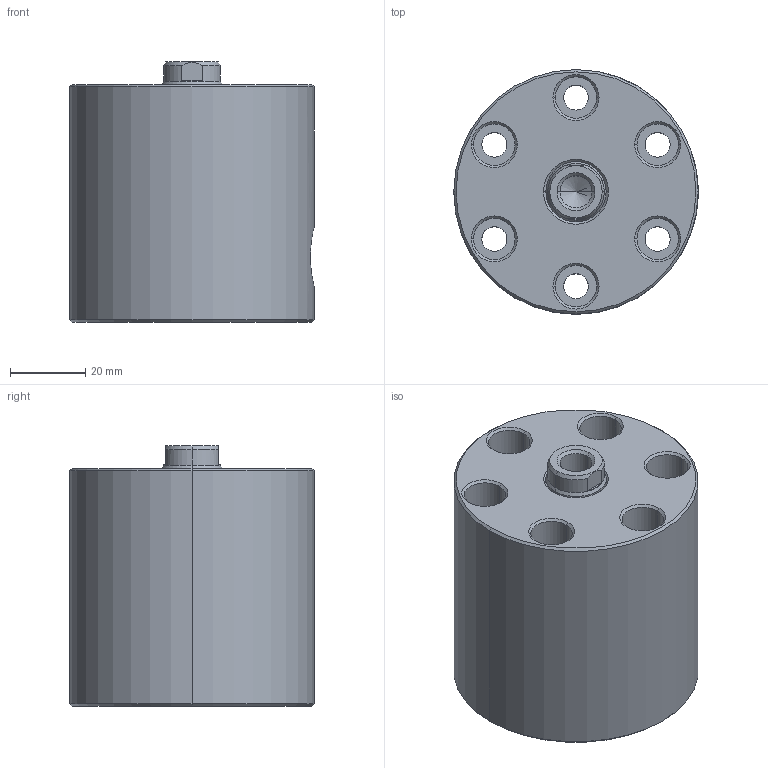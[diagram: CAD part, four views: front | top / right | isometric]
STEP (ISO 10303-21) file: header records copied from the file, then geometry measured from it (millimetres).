
FILE_DESCRIPTION (( 'STEP AP214' ), '1' );
FILE_NAME ('CO2C-6525.STEP', '2020-07-08T07:15:57', ( '' ), ( '' ), 'SwSTEP 2.0', 'SolidWorks 2019', '' );
FILE_SCHEMA (( 'AUTOMOTIVE_DESIGN' ));
Length unit declared in the file: millimetre
Products named in the file (3): CO2C-6525-BODY; CO2C-6525; CO2C-6525-PISTON
Assembly tree (2 placements, depth 2):
  CO2C-6525
    CO2C-6525-BODY
    CO2C-6525-PISTON
Bounding box: 64.8 x 64.8 x 69 mm (x, y, z)
Volume: 182889.1 mm3; surface area: 34754.6 mm2
Topology: 2 solids, 2 shells, 125 faces, 269 edges, 159 vertices
Faces by surface type: cylinder 54, cone 48, plane 23
Entity records: 3757 total; most frequent: CARTESIAN_POINT 768, DIRECTION 665, ORIENTED_EDGE 526, AXIS2_PLACEMENT_3D 278, EDGE_CURVE 263, VERTEX_POINT 159, EDGE_LOOP 154, CIRCLE 148
